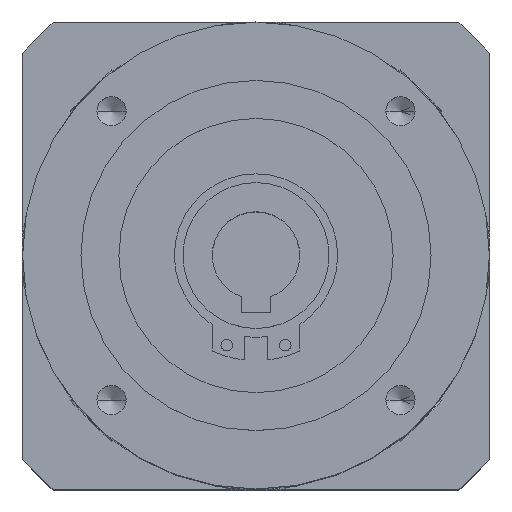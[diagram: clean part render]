
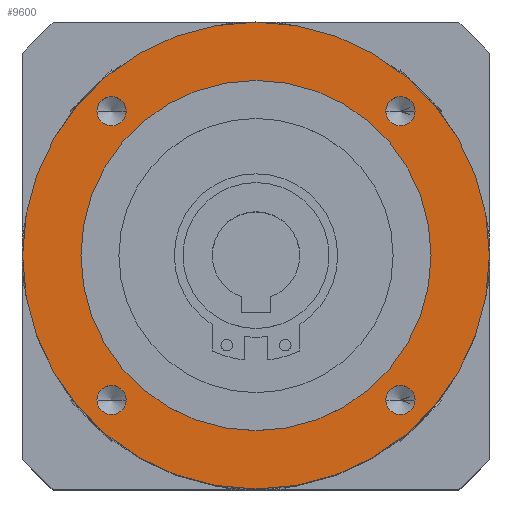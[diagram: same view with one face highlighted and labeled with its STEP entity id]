
A CAD part, top view. The second image highlights one B-rep face of the part: STEP entity #9600.
In plain terms, the highlighted planar face has unit normal (0, 0, 1).
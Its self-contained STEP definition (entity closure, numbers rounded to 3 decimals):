
#185 = DIRECTION ( 'NONE',  ( -1., 0., 0. ) ) ;
#1083 = CARTESIAN_POINT ( 'NONE',  ( -22.249, 24.749, 15. ) ) ;
#1752 = CARTESIAN_POINT ( 'NONE',  ( -22.249, -24.749, 15. ) ) ;
#1785 = CIRCLE ( 'NONE', #34408, 40. ) ;
#1897 = CIRCLE ( 'NONE', #13285, 2.5 ) ;
#1951 = ORIENTED_EDGE ( 'NONE', *, *, #35033, .F. ) ;
#1954 = FACE_BOUND ( 'NONE', #12546, .T. ) ;
#2430 = EDGE_CURVE ( 'NONE', #20144, #31216, #40490, .T. ) ;
#2469 = DIRECTION ( 'NONE',  ( 1., 0., 0. ) ) ;
#2583 = ORIENTED_EDGE ( 'NONE', *, *, #26287, .F. ) ;
#3153 = CARTESIAN_POINT ( 'NONE',  ( 0., 0., 15. ) ) ;
#3375 = DIRECTION ( 'NONE',  ( 0., 0., 1. ) ) ;
#4300 = VERTEX_POINT ( 'NONE', #38258 ) ;
#4640 = AXIS2_PLACEMENT_3D ( 'NONE', #20318, #45269, #23885 ) ;
#5005 = ORIENTED_EDGE ( 'NONE', *, *, #15800, .F. ) ;
#6731 = DIRECTION ( 'NONE',  ( 1., 0., 0. ) ) ;
#7190 = CIRCLE ( 'NONE', #43422, 30. ) ;
#8491 = AXIS2_PLACEMENT_3D ( 'NONE', #38052, #16706, #41643 ) ;
#9595 = CIRCLE ( 'NONE', #31101, 2.5 ) ;
#9600 = ADVANCED_FACE ( 'NONE', ( #12581, #20965, #11445, #22054, #1954, #38794 ), #18033, .F. ) ;
#10142 = EDGE_CURVE ( 'NONE', #32800, #30014, #27624, .T. ) ;
#10261 = CARTESIAN_POINT ( 'NONE',  ( 40., 0., 15. ) ) ;
#10880 = CIRCLE ( 'NONE', #20564, 2.5 ) ;
#11169 = ORIENTED_EDGE ( 'NONE', *, *, #29464, .F. ) ;
#11445 = FACE_BOUND ( 'NONE', #30668, .T. ) ;
#11820 = DIRECTION ( 'NONE',  ( 0., 0., 1. ) ) ;
#12546 = EDGE_LOOP ( 'NONE', ( #2583, #43479 ) ) ;
#12581 = FACE_OUTER_BOUND ( 'NONE', #31484, .T. ) ;
#13285 = AXIS2_PLACEMENT_3D ( 'NONE', #17233, #42173, #20815 ) ;
#13335 = DIRECTION ( 'NONE',  ( 0., 0., 1. ) ) ;
#13922 = DIRECTION ( 'NONE',  ( 0., 0., 1. ) ) ;
#14855 = VERTEX_POINT ( 'NONE', #1752 ) ;
#15309 = CARTESIAN_POINT ( 'NONE',  ( 0., 0., 15. ) ) ;
#15800 = EDGE_CURVE ( 'NONE', #30682, #22085, #23380, .T. ) ;
#16164 = EDGE_LOOP ( 'NONE', ( #5005, #11169 ) ) ;
#16706 = DIRECTION ( 'NONE',  ( 0., 0., 1. ) ) ;
#17233 = CARTESIAN_POINT ( 'NONE',  ( 24.749, 24.749, 15. ) ) ;
#18033 = PLANE ( 'NONE',  #43092 ) ;
#18765 = AXIS2_PLACEMENT_3D ( 'NONE', #45243, #23858, #2469 ) ;
#18886 = DIRECTION ( 'NONE',  ( 1., 0., 0. ) ) ;
#18895 = CARTESIAN_POINT ( 'NONE',  ( 0., 0., 15. ) ) ;
#19151 = CIRCLE ( 'NONE', #26253, 2.5 ) ;
#19874 = DIRECTION ( 'NONE',  ( 0., 0., 1. ) ) ;
#20144 = VERTEX_POINT ( 'NONE', #42838 ) ;
#20318 = CARTESIAN_POINT ( 'NONE',  ( 24.749, -24.749, 15. ) ) ;
#20564 = AXIS2_PLACEMENT_3D ( 'NONE', #35286, #13922, #38856 ) ;
#20815 = DIRECTION ( 'NONE',  ( 1., 0., 0. ) ) ;
#20965 = FACE_BOUND ( 'NONE', #39578, .T. ) ;
#21606 = DIRECTION ( 'NONE',  ( 0., 0., -1. ) ) ;
#21655 = CARTESIAN_POINT ( 'NONE',  ( 27.249, 24.749, 15. ) ) ;
#22054 = FACE_BOUND ( 'NONE', #30098, .T. ) ;
#22085 = VERTEX_POINT ( 'NONE', #36364 ) ;
#22482 = DIRECTION ( 'NONE',  ( 1., 0., 0. ) ) ;
#23380 = CIRCLE ( 'NONE', #42951, 2.5 ) ;
#23858 = DIRECTION ( 'NONE',  ( 0., 0., 1. ) ) ;
#23885 = DIRECTION ( 'NONE',  ( 1., 0., 0. ) ) ;
#23893 = CARTESIAN_POINT ( 'NONE',  ( 22.249, -24.749, 15. ) ) ;
#23955 = CARTESIAN_POINT ( 'NONE',  ( -30., 0., 15. ) ) ;
#24324 = CARTESIAN_POINT ( 'NONE',  ( -27.249, -24.749, 15. ) ) ;
#24784 = CARTESIAN_POINT ( 'NONE',  ( -24.749, -24.749, 15. ) ) ;
#25662 = ORIENTED_EDGE ( 'NONE', *, *, #37204, .F. ) ;
#25948 = ORIENTED_EDGE ( 'NONE', *, *, #2430, .F. ) ;
#26253 = AXIS2_PLACEMENT_3D ( 'NONE', #33186, #11820, #36770 ) ;
#26269 = AXIS2_PLACEMENT_3D ( 'NONE', #3153, #28138, #6731 ) ;
#26287 = EDGE_CURVE ( 'NONE', #44034, #4300, #1897, .T. ) ;
#26967 = CARTESIAN_POINT ( 'NONE',  ( -40., 0., 15. ) ) ;
#27624 = CIRCLE ( 'NONE', #29333, 30. ) ;
#27674 = CIRCLE ( 'NONE', #26269, 40. ) ;
#28138 = DIRECTION ( 'NONE',  ( 0., 0., -1. ) ) ;
#28361 = DIRECTION ( 'NONE',  ( 1., 0., 0. ) ) ;
#29333 = AXIS2_PLACEMENT_3D ( 'NONE', #41238, #19874, #44824 ) ;
#29464 = EDGE_CURVE ( 'NONE', #22085, #30682, #44730, .T. ) ;
#30014 = VERTEX_POINT ( 'NONE', #23955 ) ;
#30098 = EDGE_LOOP ( 'NONE', ( #25948, #32817 ) ) ;
#30668 = EDGE_LOOP ( 'NONE', ( #25662, #35650 ) ) ;
#30682 = VERTEX_POINT ( 'NONE', #1083 ) ;
#31101 = AXIS2_PLACEMENT_3D ( 'NONE', #24784, #3375, #28361 ) ;
#31216 = VERTEX_POINT ( 'NONE', #23893 ) ;
#31339 = ORIENTED_EDGE ( 'NONE', *, *, #40798, .F. ) ;
#31484 = EDGE_LOOP ( 'NONE', ( #37272, #1951 ) ) ;
#32800 = VERTEX_POINT ( 'NONE', #38257 ) ;
#32817 = ORIENTED_EDGE ( 'NONE', *, *, #44890, .F. ) ;
#33186 = CARTESIAN_POINT ( 'NONE',  ( -24.749, -24.749, 15. ) ) ;
#33227 = EDGE_CURVE ( 'NONE', #4300, #44034, #42847, .T. ) ;
#33293 = VERTEX_POINT ( 'NONE', #24324 ) ;
#34408 = AXIS2_PLACEMENT_3D ( 'NONE', #15309, #40241, #18886 ) ;
#34708 = CARTESIAN_POINT ( 'NONE',  ( -24.749, 24.749, 15. ) ) ;
#35033 = EDGE_CURVE ( 'NONE', #42637, #45863, #27674, .T. ) ;
#35286 = CARTESIAN_POINT ( 'NONE',  ( 24.749, -24.749, 15. ) ) ;
#35650 = ORIENTED_EDGE ( 'NONE', *, *, #39813, .F. ) ;
#36364 = CARTESIAN_POINT ( 'NONE',  ( -27.249, 24.749, 15. ) ) ;
#36770 = DIRECTION ( 'NONE',  ( 1., 0., 0. ) ) ;
#37204 = EDGE_CURVE ( 'NONE', #14855, #33293, #19151, .T. ) ;
#37272 = ORIENTED_EDGE ( 'NONE', *, *, #39442, .F. ) ;
#38052 = CARTESIAN_POINT ( 'NONE',  ( -24.749, 24.749, 15. ) ) ;
#38257 = CARTESIAN_POINT ( 'NONE',  ( 30., 0., 15. ) ) ;
#38258 = CARTESIAN_POINT ( 'NONE',  ( 22.249, 24.749, 15. ) ) ;
#38271 = DIRECTION ( 'NONE',  ( 1., 0., 0. ) ) ;
#38794 = FACE_BOUND ( 'NONE', #16164, .T. ) ;
#38856 = DIRECTION ( 'NONE',  ( 1., 0., 0. ) ) ;
#39361 = CARTESIAN_POINT ( 'NONE',  ( 0., 52.5, 15. ) ) ;
#39442 = EDGE_CURVE ( 'NONE', #45863, #42637, #1785, .T. ) ;
#39578 = EDGE_LOOP ( 'NONE', ( #40439, #31339 ) ) ;
#39813 = EDGE_CURVE ( 'NONE', #33293, #14855, #9595, .T. ) ;
#40241 = DIRECTION ( 'NONE',  ( 0., 0., -1. ) ) ;
#40439 = ORIENTED_EDGE ( 'NONE', *, *, #10142, .F. ) ;
#40490 = CIRCLE ( 'NONE', #4640, 2.5 ) ;
#40798 = EDGE_CURVE ( 'NONE', #30014, #32800, #7190, .T. ) ;
#41238 = CARTESIAN_POINT ( 'NONE',  ( 0., 0., 15. ) ) ;
#41643 = DIRECTION ( 'NONE',  ( 1., 0., 0. ) ) ;
#42173 = DIRECTION ( 'NONE',  ( 0., 0., 1. ) ) ;
#42637 = VERTEX_POINT ( 'NONE', #26967 ) ;
#42838 = CARTESIAN_POINT ( 'NONE',  ( 27.249, -24.749, 15. ) ) ;
#42847 = CIRCLE ( 'NONE', #18765, 2.5 ) ;
#42951 = AXIS2_PLACEMENT_3D ( 'NONE', #34708, #13335, #38271 ) ;
#43092 = AXIS2_PLACEMENT_3D ( 'NONE', #39361, #21606, #185 ) ;
#43422 = AXIS2_PLACEMENT_3D ( 'NONE', #18895, #43852, #22482 ) ;
#43479 = ORIENTED_EDGE ( 'NONE', *, *, #33227, .F. ) ;
#43852 = DIRECTION ( 'NONE',  ( 0., 0., 1. ) ) ;
#44034 = VERTEX_POINT ( 'NONE', #21655 ) ;
#44730 = CIRCLE ( 'NONE', #8491, 2.5 ) ;
#44824 = DIRECTION ( 'NONE',  ( 1., 0., 0. ) ) ;
#44890 = EDGE_CURVE ( 'NONE', #31216, #20144, #10880, .T. ) ;
#45243 = CARTESIAN_POINT ( 'NONE',  ( 24.749, 24.749, 15. ) ) ;
#45269 = DIRECTION ( 'NONE',  ( 0., 0., 1. ) ) ;
#45863 = VERTEX_POINT ( 'NONE', #10261 ) ;
